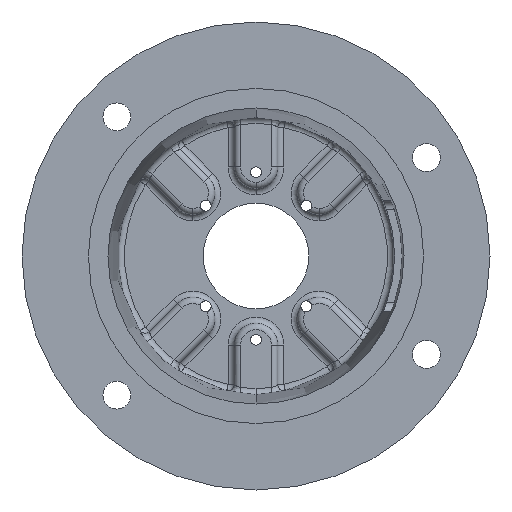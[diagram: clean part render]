
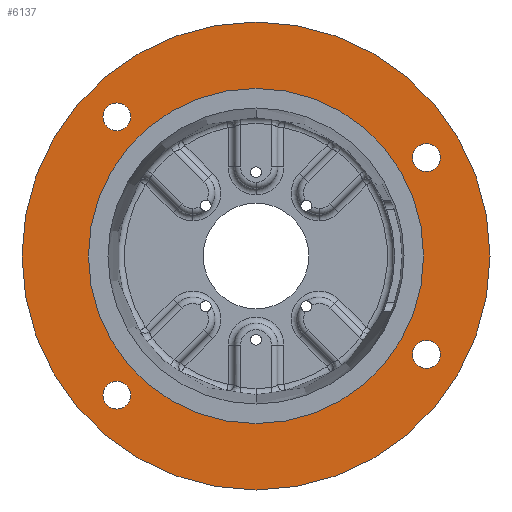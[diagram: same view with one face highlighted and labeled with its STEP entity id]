
A CAD part, front view. The second image highlights one B-rep face of the part: STEP entity #6137.
In plain terms, the highlighted planar face has unit normal (0, -1, 0).
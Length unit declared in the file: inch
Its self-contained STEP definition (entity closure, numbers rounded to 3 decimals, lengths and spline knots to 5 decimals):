
#176 = DIRECTION ( 'NONE',  ( 0., 0., -1. ) ) ;
#322 = VERTEX_POINT ( 'NONE', #4222 ) ;
#375 = ORIENTED_EDGE ( 'NONE', *, *, #1717, .F. ) ;
#417 = DIRECTION ( 'NONE',  ( 0., 1., 0. ) ) ;
#808 = CIRCLE ( 'NONE', #10541, 0.32812 ) ;
#817 = EDGE_CURVE ( 'NONE', #10262, #13705, #2948, .T. ) ;
#1236 = FACE_BOUND ( 'NONE', #1636, .T. ) ;
#1438 = VERTEX_POINT ( 'NONE', #10005 ) ;
#1450 = CARTESIAN_POINT ( 'NONE',  ( 4.00537, 0., 2.3125 ) ) ;
#1636 = EDGE_LOOP ( 'NONE', ( #375, #10603 ) ) ;
#1717 = EDGE_CURVE ( 'NONE', #322, #7932, #2600, .T. ) ;
#1790 = ORIENTED_EDGE ( 'NONE', *, *, #2301, .F. ) ;
#1828 = CARTESIAN_POINT ( 'NONE',  ( 0., 0., -3.9385 ) ) ;
#1965 = ORIENTED_EDGE ( 'NONE', *, *, #5579, .F. ) ;
#1973 = EDGE_LOOP ( 'NONE', ( #2027, #8882 ) ) ;
#2022 = CARTESIAN_POINT ( 'NONE',  ( -3.27037, 0., 2.94224 ) ) ;
#2027 = ORIENTED_EDGE ( 'NONE', *, *, #5535, .F. ) ;
#2140 = CIRCLE ( 'NONE', #10857, 0.32812 ) ;
#2301 = EDGE_CURVE ( 'NONE', #13705, #10262, #7504, .T. ) ;
#2385 = VERTEX_POINT ( 'NONE', #9463 ) ;
#2419 = DIRECTION ( 'NONE',  ( 0., -1., 0. ) ) ;
#2545 = DIRECTION ( 'NONE',  ( 0., 0., -1. ) ) ;
#2600 = CIRCLE ( 'NONE', #4427, 0.32812 ) ;
#2718 = DIRECTION ( 'NONE',  ( 0., 0., -1. ) ) ;
#2737 = DIRECTION ( 'NONE',  ( 0., -1., 0. ) ) ;
#2763 = CARTESIAN_POINT ( 'NONE',  ( 0., 0., 0. ) ) ;
#2791 = CIRCLE ( 'NONE', #5453, 0.32812 ) ;
#2941 = CARTESIAN_POINT ( 'NONE',  ( -3.27037, 0., 3.59849 ) ) ;
#2948 = CIRCLE ( 'NONE', #3784, 0.32812 ) ;
#3231 = VERTEX_POINT ( 'NONE', #1828 ) ;
#3421 = CARTESIAN_POINT ( 'NONE',  ( -3.27037, 0., -3.27037 ) ) ;
#3462 = AXIS2_PLACEMENT_3D ( 'NONE', #10784, #11145, #11125 ) ;
#3494 = EDGE_LOOP ( 'NONE', ( #5235, #10663 ) ) ;
#3591 = EDGE_CURVE ( 'NONE', #1438, #3705, #14099, .T. ) ;
#3705 = VERTEX_POINT ( 'NONE', #4025 ) ;
#3750 = CARTESIAN_POINT ( 'NONE',  ( 4.00537, 0., -2.3125 ) ) ;
#3784 = AXIS2_PLACEMENT_3D ( 'NONE', #9359, #9316, #9219 ) ;
#4025 = CARTESIAN_POINT ( 'NONE',  ( 0., 0., -5.5 ) ) ;
#4077 = CARTESIAN_POINT ( 'NONE',  ( 4.00537, 0., -1.98438 ) ) ;
#4144 = FACE_BOUND ( 'NONE', #4187, .T. ) ;
#4187 = EDGE_LOOP ( 'NONE', ( #12015, #1790 ) ) ;
#4222 = CARTESIAN_POINT ( 'NONE',  ( 4.00537, 0., -2.64063 ) ) ;
#4328 = EDGE_CURVE ( 'NONE', #8753, #3231, #11579, .T. ) ;
#4427 = AXIS2_PLACEMENT_3D ( 'NONE', #9701, #11842, #10834 ) ;
#4526 = EDGE_LOOP ( 'NONE', ( #1965, #7811 ) ) ;
#4531 = DIRECTION ( 'NONE',  ( 0., 0., -1. ) ) ;
#4783 = PLANE ( 'NONE',  #10715 ) ;
#4854 = DIRECTION ( 'NONE',  ( 0., 0., -1. ) ) ;
#5084 = VERTEX_POINT ( 'NONE', #11883 ) ;
#5235 = ORIENTED_EDGE ( 'NONE', *, *, #14044, .T. ) ;
#5340 = CIRCLE ( 'NONE', #8363, 3.9385 ) ;
#5453 = AXIS2_PLACEMENT_3D ( 'NONE', #8907, #2419, #9991 ) ;
#5463 = AXIS2_PLACEMENT_3D ( 'NONE', #12754, #6294, #13872 ) ;
#5535 = EDGE_CURVE ( 'NONE', #11031, #5084, #2791, .T. ) ;
#5579 = EDGE_CURVE ( 'NONE', #3231, #8753, #5340, .T. ) ;
#5676 = EDGE_CURVE ( 'NONE', #7932, #322, #13280, .T. ) ;
#5723 = CARTESIAN_POINT ( 'NONE',  ( 0., 0., 0. ) ) ;
#6137 = ADVANCED_FACE ( 'NONE', ( #7038, #1236, #9894, #4144, #12423, #9572 ), #4783, .F. ) ;
#6294 = DIRECTION ( 'NONE',  ( 0., -1., 0. ) ) ;
#6699 = EDGE_LOOP ( 'NONE', ( #11778, #12135 ) ) ;
#6703 = DIRECTION ( 'NONE',  ( 0., -1., 0. ) ) ;
#6786 = AXIS2_PLACEMENT_3D ( 'NONE', #2763, #2737, #2718 ) ;
#6818 = DIRECTION ( 'NONE',  ( 0., 0., -1. ) ) ;
#6969 = CARTESIAN_POINT ( 'NONE',  ( 4.00537, 0., 2.64062 ) ) ;
#7038 = FACE_BOUND ( 'NONE', #6699, .T. ) ;
#7199 = CARTESIAN_POINT ( 'NONE',  ( 0., 0., 3.9385 ) ) ;
#7504 = CIRCLE ( 'NONE', #10624, 0.32812 ) ;
#7811 = ORIENTED_EDGE ( 'NONE', *, *, #4328, .F. ) ;
#7932 = VERTEX_POINT ( 'NONE', #4077 ) ;
#8046 = DIRECTION ( 'NONE',  ( 0., 0., 1. ) ) ;
#8363 = AXIS2_PLACEMENT_3D ( 'NONE', #5723, #13287, #6818 ) ;
#8753 = VERTEX_POINT ( 'NONE', #7199 ) ;
#8882 = ORIENTED_EDGE ( 'NONE', *, *, #13585, .F. ) ;
#8907 = CARTESIAN_POINT ( 'NONE',  ( -3.27037, 0., -3.27037 ) ) ;
#9039 = DIRECTION ( 'NONE',  ( 0., -1., 0. ) ) ;
#9219 = DIRECTION ( 'NONE',  ( 0., 0., -1. ) ) ;
#9316 = DIRECTION ( 'NONE',  ( 0., -1., 0. ) ) ;
#9359 = CARTESIAN_POINT ( 'NONE',  ( -3.27037, 0., 3.27037 ) ) ;
#9463 = CARTESIAN_POINT ( 'NONE',  ( 4.00537, 0., 1.98437 ) ) ;
#9572 = FACE_OUTER_BOUND ( 'NONE', #3494, .T. ) ;
#9701 = CARTESIAN_POINT ( 'NONE',  ( 4.00537, 0., -2.3125 ) ) ;
#9881 = EDGE_CURVE ( 'NONE', #12011, #2385, #2140, .T. ) ;
#9894 = FACE_BOUND ( 'NONE', #1973, .T. ) ;
#9960 = DIRECTION ( 'NONE',  ( 0., 0., -1. ) ) ;
#9976 = DIRECTION ( 'NONE',  ( 0., -1., 0. ) ) ;
#9980 = CARTESIAN_POINT ( 'NONE',  ( -3.27037, 0., 3.27037 ) ) ;
#9991 = DIRECTION ( 'NONE',  ( 0., 0., -1. ) ) ;
#10005 = CARTESIAN_POINT ( 'NONE',  ( 0., 0., 5.5 ) ) ;
#10066 = CARTESIAN_POINT ( 'NONE',  ( -5.5, 0., 0. ) ) ;
#10248 = CARTESIAN_POINT ( 'NONE',  ( -3.27037, 0., -3.59849 ) ) ;
#10262 = VERTEX_POINT ( 'NONE', #2022 ) ;
#10541 = AXIS2_PLACEMENT_3D ( 'NONE', #1450, #9039, #2545 ) ;
#10603 = ORIENTED_EDGE ( 'NONE', *, *, #5676, .F. ) ;
#10624 = AXIS2_PLACEMENT_3D ( 'NONE', #9980, #9976, #9960 ) ;
#10663 = ORIENTED_EDGE ( 'NONE', *, *, #3591, .T. ) ;
#10715 = AXIS2_PLACEMENT_3D ( 'NONE', #10066, #417, #8046 ) ;
#10784 = CARTESIAN_POINT ( 'NONE',  ( 0., 0., 0. ) ) ;
#10834 = DIRECTION ( 'NONE',  ( 0., 0., -1. ) ) ;
#10857 = AXIS2_PLACEMENT_3D ( 'NONE', #13180, #6703, #176 ) ;
#10985 = DIRECTION ( 'NONE',  ( 0., -1., 0. ) ) ;
#11031 = VERTEX_POINT ( 'NONE', #10248 ) ;
#11125 = DIRECTION ( 'NONE',  ( 0., 0., -1. ) ) ;
#11132 = CIRCLE ( 'NONE', #5463, 5.5 ) ;
#11145 = DIRECTION ( 'NONE',  ( 0., -1., 0. ) ) ;
#11320 = DIRECTION ( 'NONE',  ( 0., -1., 0. ) ) ;
#11579 = CIRCLE ( 'NONE', #6786, 3.9385 ) ;
#11642 = CIRCLE ( 'NONE', #12041, 0.32812 ) ;
#11778 = ORIENTED_EDGE ( 'NONE', *, *, #11937, .F. ) ;
#11842 = DIRECTION ( 'NONE',  ( 0., -1., 0. ) ) ;
#11883 = CARTESIAN_POINT ( 'NONE',  ( -3.27037, 0., -2.94224 ) ) ;
#11937 = EDGE_CURVE ( 'NONE', #2385, #12011, #808, .T. ) ;
#11952 = AXIS2_PLACEMENT_3D ( 'NONE', #3750, #11320, #4854 ) ;
#12011 = VERTEX_POINT ( 'NONE', #6969 ) ;
#12015 = ORIENTED_EDGE ( 'NONE', *, *, #817, .F. ) ;
#12041 = AXIS2_PLACEMENT_3D ( 'NONE', #3421, #10985, #4531 ) ;
#12135 = ORIENTED_EDGE ( 'NONE', *, *, #9881, .F. ) ;
#12423 = FACE_BOUND ( 'NONE', #4526, .T. ) ;
#12754 = CARTESIAN_POINT ( 'NONE',  ( 0., 0., 0. ) ) ;
#13180 = CARTESIAN_POINT ( 'NONE',  ( 4.00537, 0., 2.3125 ) ) ;
#13280 = CIRCLE ( 'NONE', #11952, 0.32812 ) ;
#13287 = DIRECTION ( 'NONE',  ( 0., -1., 0. ) ) ;
#13585 = EDGE_CURVE ( 'NONE', #5084, #11031, #11642, .T. ) ;
#13705 = VERTEX_POINT ( 'NONE', #2941 ) ;
#13872 = DIRECTION ( 'NONE',  ( 0., 0., -1. ) ) ;
#14044 = EDGE_CURVE ( 'NONE', #3705, #1438, #11132, .T. ) ;
#14099 = CIRCLE ( 'NONE', #3462, 5.5 ) ;
